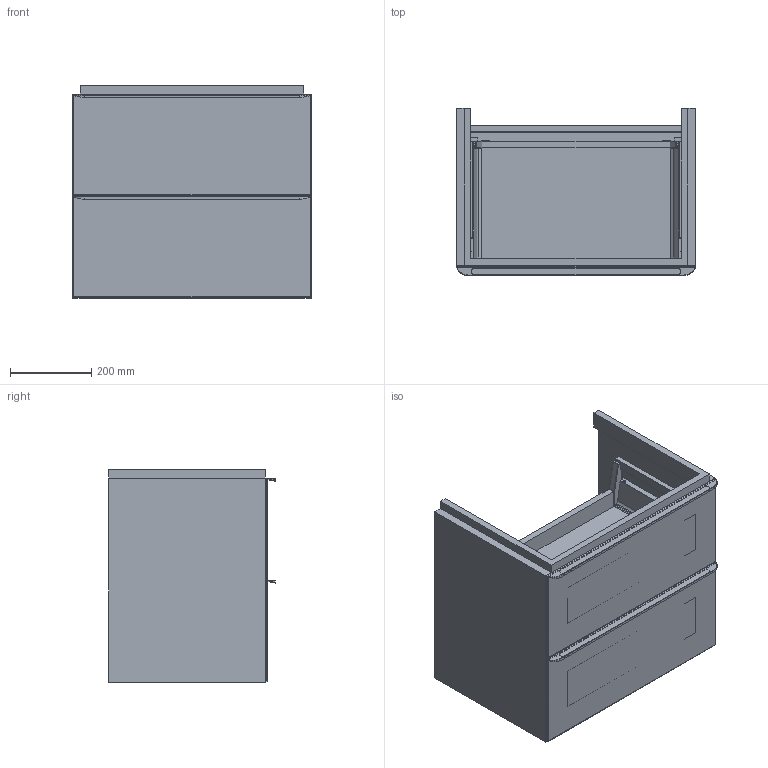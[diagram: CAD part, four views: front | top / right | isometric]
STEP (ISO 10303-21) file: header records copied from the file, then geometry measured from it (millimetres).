
FILE_DESCRIPTION(/* description */ (''),/* implementation_level */ '2;1');
FILE_NAME(/* name */ '3D01_4~3',/* time_stamp */ '2018-05-07T18:10:33+02:00',/* author */ (''),/* organization */ (''),/* preprocessor_version */ 'ST-DEVELOPER v15',/* originating_system */ '',/* authorisation */ '');
FILE_SCHEMA (('AUTOMOTIVE_DESIGN'));
Length unit declared in the file: millimetre
Products named in the file (30): Document; Parte167; Parte165; Parte151; Parte149; Parte147; Parte145; Parte139; Parte137; Parte135; Parte133; Parte131; Parte129; Parte127; Parte125; Parte119; Parte117; Parte115; Parte113; Parte111; Parte109; Parte107; Parte105; Parte103; Parte101; Parte99; Parte97; Parte95; Parte93; Parte91
Assembly tree (29 placements, depth 2):
  Document
    Parte167
    Parte165
    Parte151
    Parte149
    Parte147
    Parte145
    Parte139
    Parte137
    Parte135
    Parte133
    Parte131
    Parte129
    Parte127
    Parte125
    Parte119
    Parte117
    Parte115
    Parte113
    Parte111
    Parte109
    Parte107
    Parte105
    Parte103
    Parte101
    Parte99
    Parte97
    Parte95
    Parte93
    Parte91
Bounding box: 588 x 410 x 522 mm (x, y, z)
Volume: 21562224 mm3; surface area: 4337719.6 mm2
Topology: 29 solids, 29 shells, 1258 faces, 3500 edges, 2358 vertices
Faces by surface type: plane 886, bspline 372
Entity records: 41912 total; most frequent: CARTESIAN_POINT 18354, ORIENTED_EDGE 7000, EDGE_CURVE 3500, B_SPLINE_CURVE_WITH_KNOTS 2766, VERTEX_POINT 2358, EDGE_LOOP 1416, ADVANCED_FACE 1258, FACE_OUTER_BOUND 1258
